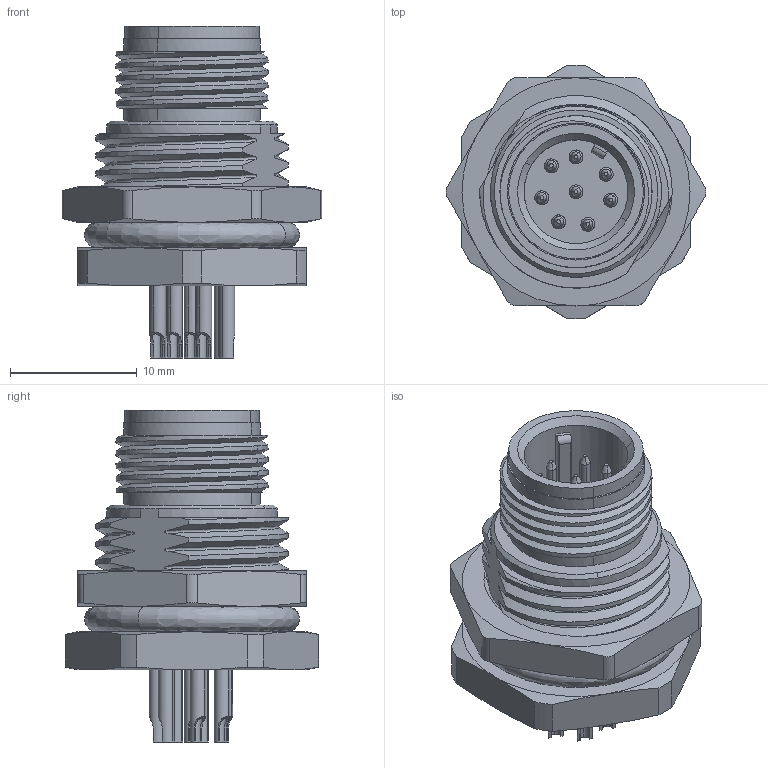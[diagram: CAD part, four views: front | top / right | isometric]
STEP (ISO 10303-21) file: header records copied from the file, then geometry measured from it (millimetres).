
FILE_DESCRIPTION (( 'STEP AP203' ), '1' );
FILE_NAME ('859-008-103RPG4.STEP', '2025-12-16T18:15:04', ( '' ), ( '' ), 'SwSTEP 2.0', 'SolidWorks 2020', '' );
FILE_SCHEMA (( 'CONFIG_CONTROL_DESIGN' ));
Length unit declared in the file: millimetre
Products named in the file (1): 859-008-103RPG4
Bounding box: 20.5 x 19.99 x 26.2 mm (x, y, z)
Volume: 3141.8 mm3; surface area: 3195.7 mm2
Topology: 10 solids, 10 shells, 318 faces, 848 edges, 537 vertices
Faces by surface type: cylinder 122, cone 77, plane 73, bspline 46
Entity records: 25462 total; most frequent: CARTESIAN_POINT 18369, ORIENTED_EDGE 1664, DIRECTION 1128, EDGE_CURVE 832, VERTEX_POINT 538, AXIS2_PLACEMENT_3D 432, B_SPLINE_CURVE_WITH_KNOTS 409, EDGE_LOOP 334
